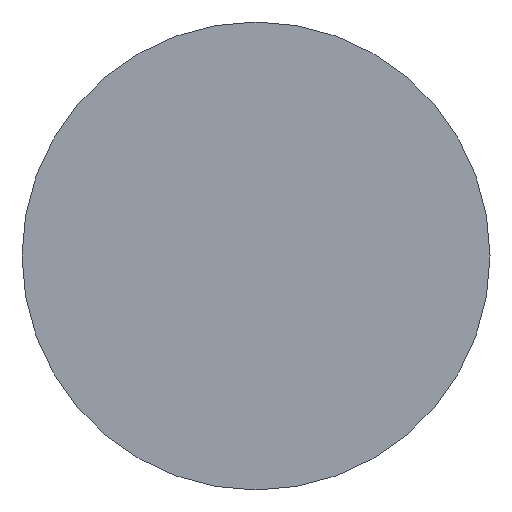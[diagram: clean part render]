
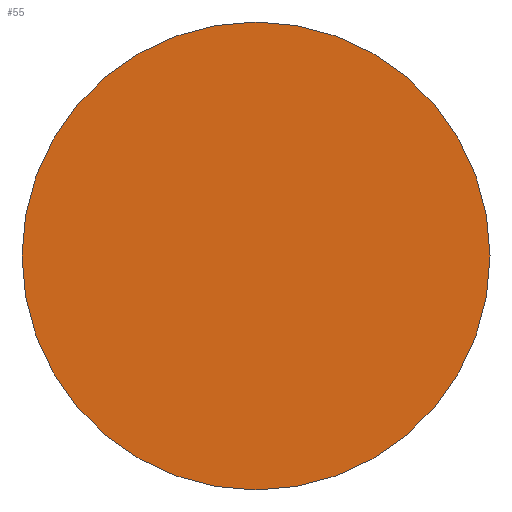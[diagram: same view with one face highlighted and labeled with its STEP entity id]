
A CAD part, top view. The second image highlights one B-rep face of the part: STEP entity #55.
In plain terms, the highlighted planar face has unit normal (0, 0, 1).
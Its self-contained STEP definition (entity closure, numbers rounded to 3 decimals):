
#55=ADVANCED_FACE('',(#113),#114,.T.);
#113=FACE_OUTER_BOUND('',#163,.T.);
#114=PLANE('',#164);
#163=EDGE_LOOP('',(#239));
#164=AXIS2_PLACEMENT_3D('',#240,#241,#242);
#239=ORIENTED_EDGE('',*,*,#262,.F.);
#240=CARTESIAN_POINT('',(-12.,0.0,0.0));
#241=DIRECTION('',(0.0,0.,1.0));
#242=DIRECTION('',(0.0,-1.0,0.));
#262=EDGE_CURVE('',#292,#292,#293,.T.);
#292=VERTEX_POINT('',#323);
#293=CIRCLE('',#324,12.);
#323=CARTESIAN_POINT('',(0.0,12.,0.));
#324=AXIS2_PLACEMENT_3D('',#353,#354,#355);
#353=CARTESIAN_POINT('',(0.0,0.0,0.0));
#354=DIRECTION('',(-0.0,0.,-1.0));
#355=DIRECTION('',(0.0,1.0,0.));
